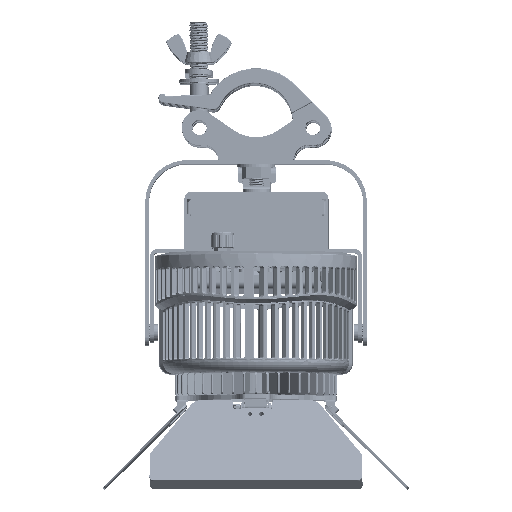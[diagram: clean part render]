
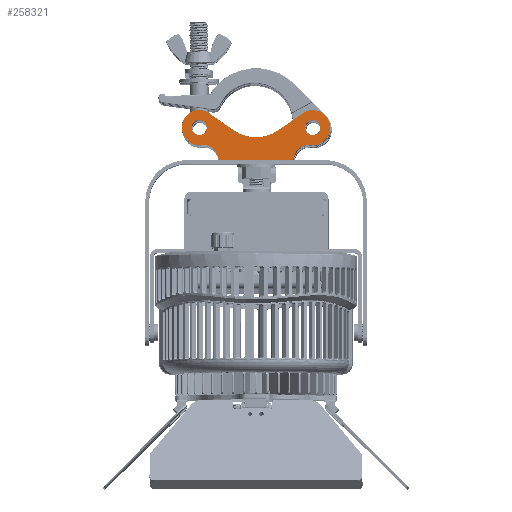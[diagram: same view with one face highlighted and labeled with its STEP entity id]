
A CAD part, top view. The second image highlights one B-rep face of the part: STEP entity #258321.
In plain terms, the highlighted planar face has unit normal (-0.003, 0.023, 1) as drawn and (0, 0, -1) by its records, which use the part's own axes.
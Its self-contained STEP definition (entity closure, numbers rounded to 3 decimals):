
#542 = CIRCLE ( 'NONE', #296252, 5. ) ;
#5140 = DIRECTION ( 'NONE',  ( 0., 0., 1. ) ) ;
#7280 = VERTEX_POINT ( 'NONE', #157544 ) ;
#7687 = LINE ( 'NONE', #57578, #209252 ) ;
#8845 = CARTESIAN_POINT ( 'NONE',  ( -30.956, 30.811, -15. ) ) ;
#9691 = CIRCLE ( 'NONE', #157453, 1. ) ;
#11557 = DIRECTION ( 'NONE',  ( 0., 0., -1. ) ) ;
#17196 = DIRECTION ( 'NONE',  ( 1., 0., 0. ) ) ;
#18739 = FACE_BOUND ( 'NONE', #247294, .T. ) ;
#19681 = CARTESIAN_POINT ( 'NONE',  ( 25.041, 0.909, -15. ) ) ;
#22710 = CARTESIAN_POINT ( 'NONE',  ( 30.956, 30.811, -15. ) ) ;
#25127 = DIRECTION ( 'NONE',  ( 0., 0., 1. ) ) ;
#25283 = CIRCLE ( 'NONE', #178598, 5. ) ;
#26901 = CARTESIAN_POINT ( 'NONE',  ( 37.5, 21.354, -15. ) ) ;
#28785 = VERTEX_POINT ( 'NONE', #252379 ) ;
#31041 = CIRCLE ( 'NONE', #139099, 10. ) ;
#32078 = ORIENTED_EDGE ( 'NONE', *, *, #102534, .F. ) ;
#36955 = CARTESIAN_POINT ( 'NONE',  ( 24.046, 0., -15. ) ) ;
#38966 = ORIENTED_EDGE ( 'NONE', *, *, #202493, .T. ) ;
#41833 = AXIS2_PLACEMENT_3D ( 'NONE', #49494, #266757, #348714 ) ;
#42317 = DIRECTION ( 'NONE',  ( 1., 0., 0. ) ) ;
#44790 = EDGE_CURVE ( 'NONE', #7280, #28785, #92709, .T. ) ;
#49494 = CARTESIAN_POINT ( 'NONE',  ( -37.5, 21.354, -15. ) ) ;
#52705 = VERTEX_POINT ( 'NONE', #262076 ) ;
#53260 = CARTESIAN_POINT ( 'NONE',  ( 14.51, 19.431, -15. ) ) ;
#53840 = DIRECTION ( 'NONE',  ( 1., 0., 0. ) ) ;
#57578 = CARTESIAN_POINT ( 'NONE',  ( 30.956, 30.811, -15. ) ) ;
#60710 = AXIS2_PLACEMENT_3D ( 'NONE', #243085, #109569, #114809 ) ;
#61107 = DIRECTION ( 'NONE',  ( -0.822, -0.569, 0. ) ) ;
#65133 = FACE_BOUND ( 'NONE', #102332, .T. ) ;
#65501 = DIRECTION ( 'NONE',  ( 1., 0., 0. ) ) ;
#67428 = EDGE_CURVE ( 'NONE', #95165, #264317, #275875, .T. ) ;
#68543 = VECTOR ( 'NONE', #117453, 1000. ) ;
#68952 = CARTESIAN_POINT ( 'NONE',  ( -14.51, 19.431, -15. ) ) ;
#69805 = VERTEX_POINT ( 'NONE', #36955 ) ;
#70038 = EDGE_CURVE ( 'NONE', #110706, #283303, #7687, .T. ) ;
#72273 = DIRECTION ( 'NONE',  ( 0., 0., 1. ) ) ;
#74015 = EDGE_CURVE ( 'NONE', #95165, #69805, #86998, .T. ) ;
#74516 = CARTESIAN_POINT ( 'NONE',  ( 36.163, 9.932, -15. ) ) ;
#76774 = ORIENTED_EDGE ( 'NONE', *, *, #220935, .F. ) ;
#82052 = DIRECTION ( 'NONE',  ( 1., 0., 0. ) ) ;
#85226 = CARTESIAN_POINT ( 'NONE',  ( -37.5, 21.354, -15. ) ) ;
#86998 = LINE ( 'NONE', #195684, #269555 ) ;
#90339 = VERTEX_POINT ( 'NONE', #19681 ) ;
#92709 = CIRCLE ( 'NONE', #41833, 11.5 ) ;
#95165 = VERTEX_POINT ( 'NONE', #130353 ) ;
#97277 = DIRECTION ( 'NONE',  ( 1., 0., 0. ) ) ;
#97508 = CARTESIAN_POINT ( 'NONE',  ( -25.041, 0.909, -15. ) ) ;
#99358 = DIRECTION ( 'NONE',  ( 1., 0., 0. ) ) ;
#102332 = EDGE_LOOP ( 'NONE', ( #193209, #261284 ) ) ;
#102534 = EDGE_CURVE ( 'NONE', #283303, #284772, #299785, .T. ) ;
#102926 = CARTESIAN_POINT ( 'NONE',  ( 37.5, 21.354, -15. ) ) ;
#102944 = ORIENTED_EDGE ( 'NONE', *, *, #74015, .F. ) ;
#109569 = DIRECTION ( 'NONE',  ( 0., 0., -1. ) ) ;
#110706 = VERTEX_POINT ( 'NONE', #22710 ) ;
#114408 = CIRCLE ( 'NONE', #148421, 10. ) ;
#114809 = DIRECTION ( 'NONE',  ( 1., 0., 0. ) ) ;
#117453 = DIRECTION ( 'NONE',  ( -0.822, 0.569, 0. ) ) ;
#118292 = DIRECTION ( 'NONE',  ( 0., 0., -1. ) ) ;
#119385 = VERTEX_POINT ( 'NONE', #166757 ) ;
#120335 = CIRCLE ( 'NONE', #131525, 5. ) ;
#122314 = AXIS2_PLACEMENT_3D ( 'NONE', #314272, #11557, #285742 ) ;
#130353 = CARTESIAN_POINT ( 'NONE',  ( -24.046, 0., -15. ) ) ;
#130836 = EDGE_CURVE ( 'NONE', #119385, #296440, #542, .T. ) ;
#131525 = AXIS2_PLACEMENT_3D ( 'NONE', #312817, #72273, #97277 ) ;
#139099 = AXIS2_PLACEMENT_3D ( 'NONE', #294321, #158936, #215851 ) ;
#139983 = AXIS2_PLACEMENT_3D ( 'NONE', #102926, #238128, #42317 ) ;
#143930 = CARTESIAN_POINT ( 'NONE',  ( -37.5, 21.354, -15. ) ) ;
#145545 = CIRCLE ( 'NONE', #139983, 11.5 ) ;
#146158 = ORIENTED_EDGE ( 'NONE', *, *, #70038, .F. ) ;
#148421 = AXIS2_PLACEMENT_3D ( 'NONE', #253606, #118292, #246612 ) ;
#152399 = PLANE ( 'NONE',  #332069 ) ;
#157453 = AXIS2_PLACEMENT_3D ( 'NONE', #261172, #339663, #17196 ) ;
#157544 = CARTESIAN_POINT ( 'NONE',  ( -49., 21.354, -15. ) ) ;
#158672 = AXIS2_PLACEMENT_3D ( 'NONE', #269375, #347825, #53840 ) ;
#158936 = DIRECTION ( 'NONE',  ( 0., 0., -1. ) ) ;
#163268 = EDGE_CURVE ( 'NONE', #352024, #342563, #120335, .T. ) ;
#166757 = CARTESIAN_POINT ( 'NONE',  ( -42.5, 21.354, -15. ) ) ;
#167233 = CIRCLE ( 'NONE', #292352, 11.5 ) ;
#167597 = EDGE_CURVE ( 'NONE', #52705, #7280, #167233, .T. ) ;
#167937 = ORIENTED_EDGE ( 'NONE', *, *, #167597, .F. ) ;
#172053 = EDGE_CURVE ( 'NONE', #303273, #110706, #145545, .T. ) ;
#173818 = FACE_OUTER_BOUND ( 'NONE', #240923, .T. ) ;
#178598 = AXIS2_PLACEMENT_3D ( 'NONE', #26901, #25127, #82052 ) ;
#180534 = ORIENTED_EDGE ( 'NONE', *, *, #44790, .F. ) ;
#181359 = CARTESIAN_POINT ( 'NONE',  ( -32.5, 21.354, -15. ) ) ;
#191379 = EDGE_CURVE ( 'NONE', #28785, #264317, #31041, .T. ) ;
#192178 = ORIENTED_EDGE ( 'NONE', *, *, #249191, .F. ) ;
#193209 = ORIENTED_EDGE ( 'NONE', *, *, #163268, .T. ) ;
#195684 = CARTESIAN_POINT ( 'NONE',  ( -25., 0., -15. ) ) ;
#202493 = EDGE_CURVE ( 'NONE', #90339, #69805, #9691, .T. ) ;
#205351 = ORIENTED_EDGE ( 'NONE', *, *, #67428, .T. ) ;
#209252 = VECTOR ( 'NONE', #61107, 1000. ) ;
#215851 = DIRECTION ( 'NONE',  ( 1., 0., 0. ) ) ;
#216308 = EDGE_CURVE ( 'NONE', #296440, #119385, #306653, .T. ) ;
#218227 = ORIENTED_EDGE ( 'NONE', *, *, #172053, .F. ) ;
#220935 = EDGE_CURVE ( 'NONE', #90339, #303273, #114408, .T. ) ;
#224320 = LINE ( 'NONE', #8845, #68543 ) ;
#238128 = DIRECTION ( 'NONE',  ( 0., 0., 1. ) ) ;
#240923 = EDGE_LOOP ( 'NONE', ( #76774, #38966, #102944, #205351, #295172, #180534, #167937, #192178, #32078, #146158, #218227 ) ) ;
#241235 = CARTESIAN_POINT ( 'NONE',  ( -35., 0., -15. ) ) ;
#243085 = CARTESIAN_POINT ( 'NONE',  ( 0., 40.4, -15. ) ) ;
#244757 = DIRECTION ( 'NONE',  ( 0., 0., 1. ) ) ;
#246612 = DIRECTION ( 'NONE',  ( -1., 0., 0. ) ) ;
#247294 = EDGE_LOOP ( 'NONE', ( #347811, #312285 ) ) ;
#249081 = DIRECTION ( 'NONE',  ( -1., 0., 0. ) ) ;
#249191 = EDGE_CURVE ( 'NONE', #284772, #52705, #224320, .T. ) ;
#252379 = CARTESIAN_POINT ( 'NONE',  ( -36.163, 9.932, -15. ) ) ;
#252575 = DIRECTION ( 'NONE',  ( 0., 0., 1. ) ) ;
#253606 = CARTESIAN_POINT ( 'NONE',  ( 35., 0., -15. ) ) ;
#258321 = ADVANCED_FACE ( 'NONE', ( #18739, #173818, #65133 ), #152399, .F. ) ;
#261172 = CARTESIAN_POINT ( 'NONE',  ( 24.046, 1., -15. ) ) ;
#261284 = ORIENTED_EDGE ( 'NONE', *, *, #319985, .T. ) ;
#262076 = CARTESIAN_POINT ( 'NONE',  ( -30.956, 30.811, -15. ) ) ;
#264317 = VERTEX_POINT ( 'NONE', #97508 ) ;
#266757 = DIRECTION ( 'NONE',  ( 0., 0., 1. ) ) ;
#267464 = CARTESIAN_POINT ( 'NONE',  ( 42.5, 21.354, -15. ) ) ;
#269375 = CARTESIAN_POINT ( 'NONE',  ( -37.5, 21.354, -15. ) ) ;
#269555 = VECTOR ( 'NONE', #99358, 1000. ) ;
#275875 = CIRCLE ( 'NONE', #122314, 1. ) ;
#282650 = CARTESIAN_POINT ( 'NONE',  ( 32.5, 21.354, -15. ) ) ;
#283303 = VERTEX_POINT ( 'NONE', #53260 ) ;
#284772 = VERTEX_POINT ( 'NONE', #68952 ) ;
#285742 = DIRECTION ( 'NONE',  ( 1., 0., 0. ) ) ;
#292352 = AXIS2_PLACEMENT_3D ( 'NONE', #143930, #252575, #249081 ) ;
#294321 = CARTESIAN_POINT ( 'NONE',  ( -35., 0., -15. ) ) ;
#295172 = ORIENTED_EDGE ( 'NONE', *, *, #191379, .F. ) ;
#296252 = AXIS2_PLACEMENT_3D ( 'NONE', #85226, #5140, #65501 ) ;
#296440 = VERTEX_POINT ( 'NONE', #181359 ) ;
#299785 = CIRCLE ( 'NONE', #60710, 25.5 ) ;
#303273 = VERTEX_POINT ( 'NONE', #74516 ) ;
#306653 = CIRCLE ( 'NONE', #158672, 5. ) ;
#312285 = ORIENTED_EDGE ( 'NONE', *, *, #216308, .T. ) ;
#312817 = CARTESIAN_POINT ( 'NONE',  ( 37.5, 21.354, -15. ) ) ;
#314272 = CARTESIAN_POINT ( 'NONE',  ( -24.046, 1., -15. ) ) ;
#319985 = EDGE_CURVE ( 'NONE', #342563, #352024, #25283, .T. ) ;
#332069 = AXIS2_PLACEMENT_3D ( 'NONE', #241235, #244757, #349963 ) ;
#339663 = DIRECTION ( 'NONE',  ( 0., 0., -1. ) ) ;
#342563 = VERTEX_POINT ( 'NONE', #267464 ) ;
#347811 = ORIENTED_EDGE ( 'NONE', *, *, #130836, .T. ) ;
#347825 = DIRECTION ( 'NONE',  ( 0., 0., 1. ) ) ;
#348714 = DIRECTION ( 'NONE',  ( -1., 0., 0. ) ) ;
#349963 = DIRECTION ( 'NONE',  ( 1., 0., 0. ) ) ;
#352024 = VERTEX_POINT ( 'NONE', #282650 ) ;
